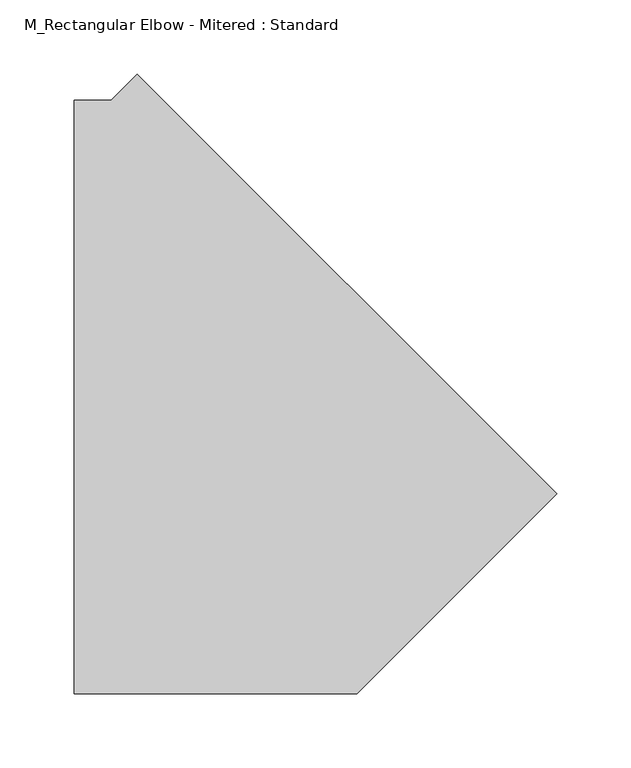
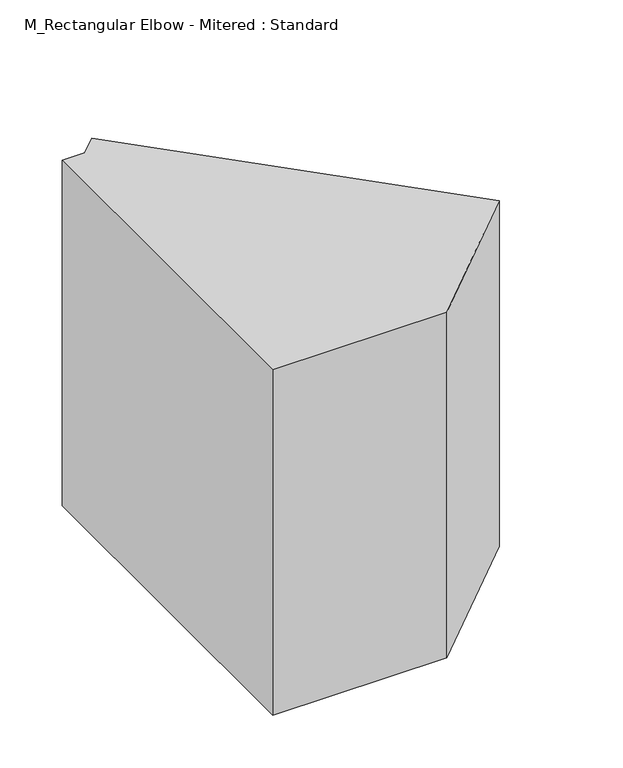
"""IFC4 building model written with IfcOpenShell, lengths in millimetres: duct fitting geometry, M_Rectangular Elbow - Mitered : Standard."""

from ifc_helpers import new_model, si_unit, frame, origin, place, context, project, spatial, polyline, outline, extrude, source, transform, mapped, element, save


def m_rectangular_elbow_mitered_standard_bc5a5ab9(model_context):
    return source(origin(), model_context, "Body", "SweptSolid", [
        extrude(outline(polyline([(-107.8427125, -200.0), (-107.8427125, 200.0), (-82.8427125, 200.0), (-65.1650429, 217.6776695), (217.6776695, -65.1650429), (82.8427125, -200.0), (-107.8427125, -200.0)])), frame((0.0, 0.0, -200.0), z_axis=(0.0, 0.0, 1.0), x_axis=(1.0, 0.0, 0.0)), (0.0, 0.0, 1.0), 400.0),
        extrude(outline(polyline([(-107.8427125, -200.0), (-107.8427125, 200.0), (-82.8427125, 200.0), (-65.1650429, 217.6776695), (217.6776695, -65.1650429), (82.8427125, -200.0), (-107.8427125, -200.0)])), frame((0.0, 0.0, -200.0), z_axis=(0.0, 0.0, 1.0), x_axis=(1.0, 0.0, 0.0)), (0.0, 0.0, 1.0), 400.0),
        extrude(outline(polyline([(-107.8427125, -200.0), (-107.8427125, 200.0), (-82.8427125, 200.0), (-65.1650429, 217.6776695), (217.6776695, -65.1650429), (82.8427125, -200.0), (-107.8427125, -200.0)])), frame((0.0, 0.0, -200.0), z_axis=(0.0, 0.0, 1.0), x_axis=(1.0, 0.0, 0.0)), (0.0, 0.0, 1.0), 400.0),
    ])


if __name__ == "__main__":
    model = new_model("IFC4")
    model_context = context("Model", 3, world=origin())
    ifc_project = project(units=[si_unit("LENGTHUNIT", "METRE", prefix="MILLI")], contexts=[model_context])
    site = spatial("IfcSite", under=ifc_project)
    building = spatial("IfcBuilding", under=site)
    placement = place(None, origin())
    m_rectangular_elbow_mitered_standard_shape = m_rectangular_elbow_mitered_standard_bc5a5ab9(model_context)
    element("IfcDuctFitting", 1, ObjectType="M_Rectangular Elbow - Mitered : Standard", at=placement, inside=building, context=model_context, shape_type="MappedRepresentation", body=[
        mapped(m_rectangular_elbow_mitered_standard_shape, transform((0.0, 0.0, 0.0), x_axis=(1.0, 0.0, 0.0), y_axis=(0.0, 1.0, 0.0), z_axis=(0.0, 0.0, 1.0))),
    ])
    save(model, "model.ifc")
